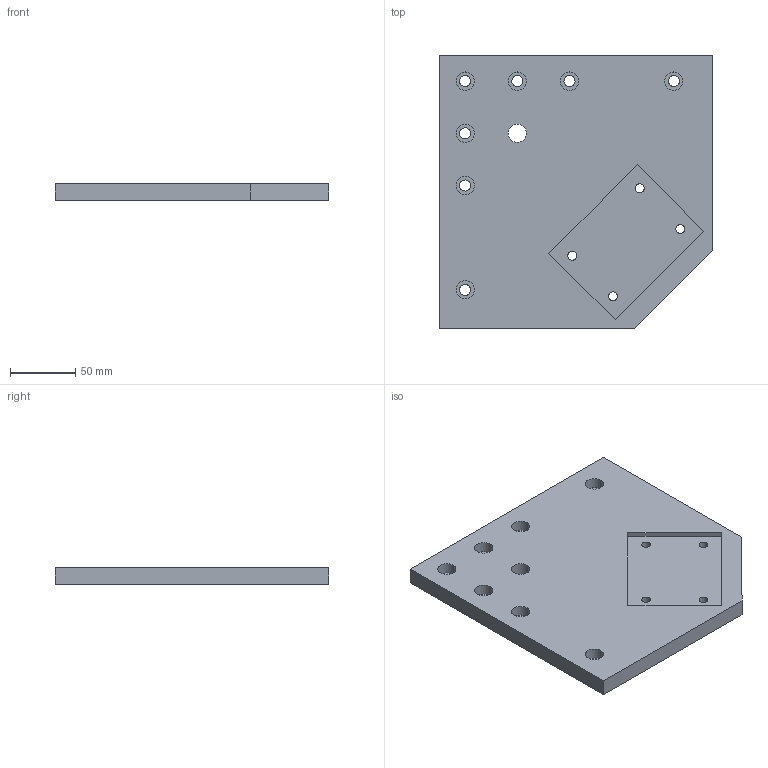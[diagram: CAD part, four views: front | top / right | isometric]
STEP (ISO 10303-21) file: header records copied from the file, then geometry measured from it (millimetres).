
FILE_DESCRIPTION (( 'STEP AP203' ), '1' );
FILE_NAME ('PF08210N.STEP', '2024-02-19T06:46:32', ( '' ), ( '' ), 'SwSTEP 2.0', 'SolidWorks 2022', '' );
FILE_SCHEMA (( 'CONFIG_CONTROL_DESIGN' ));
Length unit declared in the file: millimetre
Products named in the file (1): PF08210N
Bounding box: 210 x 210 x 13 mm (x, y, z)
Volume: 514720.2 mm3; surface area: 99563.8 mm2
Topology: 1 solids, 1 shells, 57 faces, 141 edges, 94 vertices
Faces by surface type: cylinder 38, plane 19
Entity records: 1856 total; most frequent: DIRECTION 333, CARTESIAN_POINT 293, ORIENTED_EDGE 282, EDGE_CURVE 141, AXIS2_PLACEMENT_3D 134, VERTEX_POINT 94, EDGE_LOOP 89, CIRCLE 76
